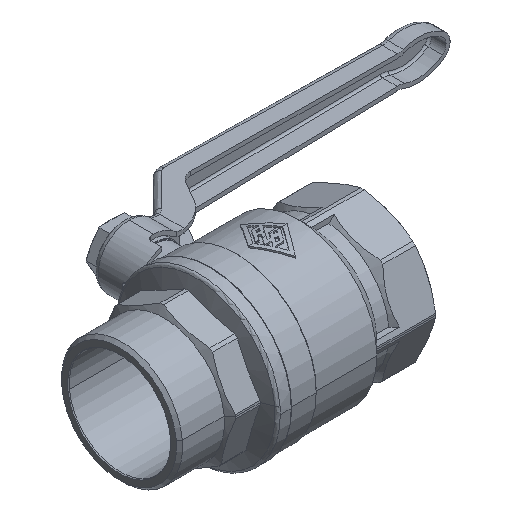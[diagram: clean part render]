
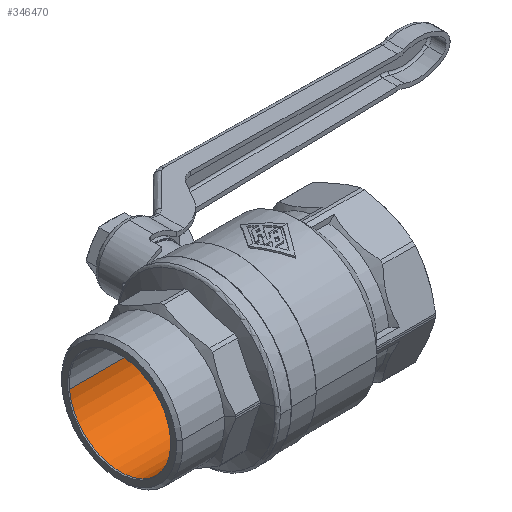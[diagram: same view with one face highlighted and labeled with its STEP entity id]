
A CAD part, isometric view. The second image highlights one B-rep face of the part: STEP entity #346470.
In plain terms, the highlighted cylindrical face has radius 25 mm (diameter 50 mm), a partial arc.
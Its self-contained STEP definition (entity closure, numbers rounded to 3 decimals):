
#345930=CARTESIAN_POINT('',(69.,-24.889,
-2.357));
#345940=VERTEX_POINT('',#345930);
#346020=CARTESIAN_POINT('',(69.,24.889,
2.357));
#346030=VERTEX_POINT('',#346020);
#346060=CARTESIAN_POINT('',(69.,0.,
0.));
#346070=DIRECTION('',(1.,0.,0.));
#346080=DIRECTION('',(0.,-0.996,-0.094));
#346090=AXIS2_PLACEMENT_3D('',#346060,#346070,#346080);
#346100=CIRCLE('',#346090,25.);
#346110=EDGE_CURVE('',#346030,#345940,#346100,.T.);
#346160=CARTESIAN_POINT('',(51.5,0.,
0.));
#346170=DIRECTION('',(-1.,0.,0.));
#346180=DIRECTION('',(0.,-0.996,-0.094));
#346190=AXIS2_PLACEMENT_3D('',#346160,#346170,#346180);
#346200=CYLINDRICAL_SURFACE('',#346190,25.);
#346210=CARTESIAN_POINT('',(51.5,-24.889,
-2.357));
#346220=DIRECTION('',(-1.,0.,0.));
#346230=VECTOR('',#346220,1.);
#346240=LINE('',#346210,#346230);
#346250=CARTESIAN_POINT('',(34.,-24.889,
-2.357));
#346260=VERTEX_POINT('',#346250);
#346270=EDGE_CURVE('',#345940,#346260,#346240,.T.);
#346280=ORIENTED_EDGE('',*,*,#346270,.T.);
#346290=ORIENTED_EDGE('',*,*,#346110,.T.);
#346300=CARTESIAN_POINT('',(51.5,24.889,
2.357));
#346310=DIRECTION('',(-1.,0.,0.));
#346320=VECTOR('',#346310,1.);
#346330=LINE('',#346300,#346320);
#346340=CARTESIAN_POINT('',(34.,24.889,
2.357));
#346350=VERTEX_POINT('',#346340);
#346360=EDGE_CURVE('',#346030,#346350,#346330,.T.);
#346370=ORIENTED_EDGE('',*,*,#346360,.F.);
#346380=CARTESIAN_POINT('',(34.,0.,
0.));
#346390=DIRECTION('',(1.,0.,0.));
#346400=DIRECTION('',(0.,-0.996,-0.094));
#346410=AXIS2_PLACEMENT_3D('',#346380,#346390,#346400);
#346420=CIRCLE('',#346410,25.);
#346430=EDGE_CURVE('',#346350,#346260,#346420,.T.);
#346440=ORIENTED_EDGE('',*,*,#346430,.F.);
#346450=EDGE_LOOP('',(#346440,#346370,#346290,#346280));
#346460=FACE_OUTER_BOUND('',#346450,.T.);
#346470=ADVANCED_FACE('',(#346460),#346200,.F.);
